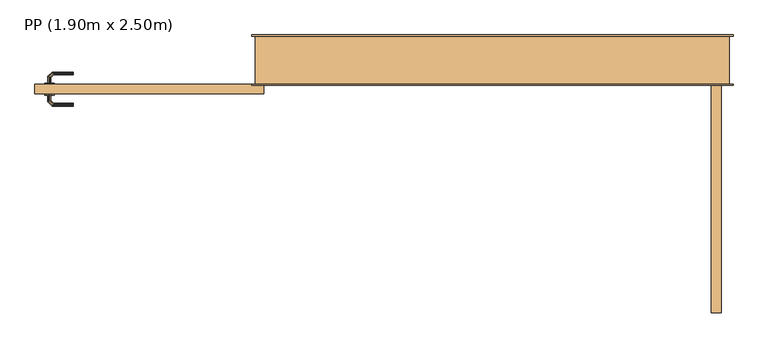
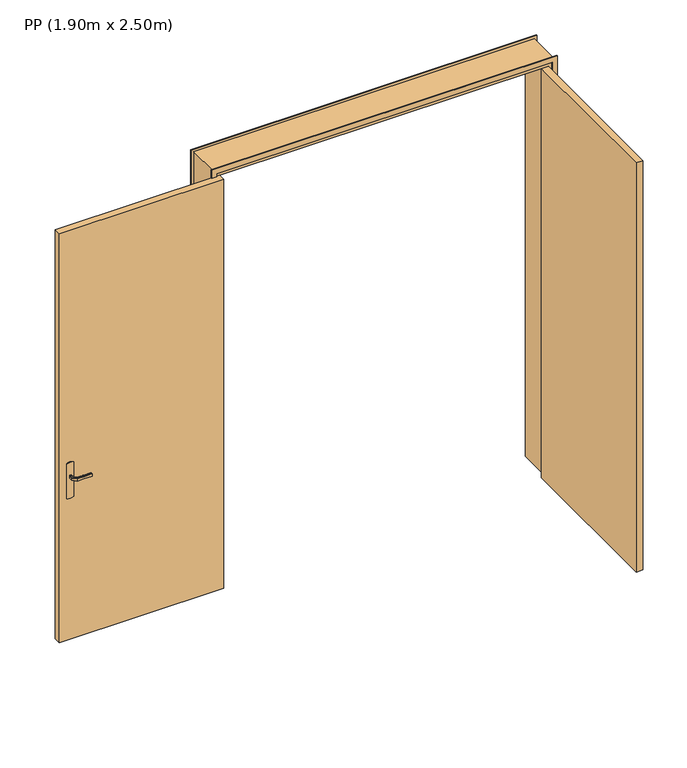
"""IFC4 building model written with IfcOpenShell, lengths in millimetres: door geometry, PP (1.90m x 2.50m)."""

from ifc_helpers import new_model, si_unit, frame, origin, origin_with_axes, place, context, project, spatial, polyline, outline, extrude, faceted_brep, source, transform, mapped, element, save


def pp_1_90m_x_2_50m_8b8835a9(model_context):
    return source(origin(), model_context, "Body", "SolidModel", [
        extrude(outline(polyline([(0.0, 2055.0), (2550.0, 2055.0), (2550.0, 55.0), (0.0, 55.0), (0.0, 85.0), (2520.0, 85.0), (2520.0, 2025.0), (0.0, 2025.0), (0.0, 2055.0)])), frame((0.0, -5.0, 0.0), z_axis=(0.0, 1.0, 0.0), x_axis=(0.0, 0.0, 1.0)), (0.0, 0.0, 1.0), 5.0),
        extrude(outline(polyline([(0.0, 2055.0), (2550.0, 2055.0), (2550.0, 55.0), (0.0, 55.0), (0.0, 85.0), (2520.0, 85.0), (2520.0, 2025.0), (0.0, 2025.0), (0.0, 2055.0)])), frame((0.0, 200.0, 0.0), z_axis=(0.0, 1.0, 0.0), x_axis=(0.0, 0.0, 1.0)), (0.0, 0.0, 1.0), 5.0),
        extrude(outline(polyline([(-845.0, -40.0), (-845.0, 0.0), (105.0, 0.0), (105.0, -40.0), (-845.0, -40.0)])), origin_with_axes(), (0.0, 0.0, 1.0), 2500.0),
        extrude(outline(polyline([(1085.3589838, -785.0), (1083.9960169, -795.3527618), (1080.0, -805.0), (870.0, -805.0), (866.0039831, -795.3527618), (864.6410162, -785.0), (866.0039831, -774.6472382), (870.0, -765.0), (1080.0, -765.0), (1083.9960169, -774.6472382), (1085.3589838, -785.0)])), frame((0.0, -45.0, 0.0), z_axis=(0.0, 1.0, 0.0), x_axis=(0.0, 0.0, 1.0)), (0.0, 0.0, 1.0), 5.0),
        faceted_brep([(2040.0, 0.0, 0.0), (2005.0, 0.0, 0.0), (2005.0, 40.0, 0.0), (1990.0, 40.0, 0.0), (1990.0, 200.0, 0.0), (2040.0, 200.0, 0.0), (2040.0, 200.0, 2535.0), (2040.0, 0.0, 2535.0), (1990.0, 200.0, 2485.0), (120.0, 200.0, 2485.0), (120.0, 200.0, 0.0), (70.0, 200.0, 0.0), (70.0, 200.0, 2535.0), (1990.0, 40.0, 2485.0), (2005.0, 40.0, 2500.0), (105.0, 40.0, 2500.0), (105.0, 40.0, 0.0), (120.0, 40.0, 0.0), (120.0, 40.0, 2485.0), (2005.0, 0.0, 2500.0), (70.0, 0.0, 2535.0), (70.0, 0.0, 0.0), (105.0, 0.0, 0.0), (105.0, 0.0, 2500.0)], [[[0, 1, 2, 3, 4, 5]], [[5, 6, 7, 0]], [[4, 8, 9, 10, 11, 12, 6, 5]], [[3, 13, 8, 4]], [[2, 14, 15, 16, 17, 18, 13, 3]], [[1, 19, 14, 2]], [[0, 7, 20, 21, 22, 23, 19, 1]], [[12, 11, 21, 20]], [[21, 11, 10, 17, 16, 22]], [[18, 17, 10, 9]], [[23, 22, 16, 15]], [[6, 12, 20, 7]], [[13, 18, 9, 8]], [[19, 23, 15, 14]]]),
        extrude(outline(polyline([(1965.0, -950.0), (1965.0, 0.0), (2005.0, 0.0), (2005.0, -950.0), (1965.0, -950.0)])), origin_with_axes(), (0.0, 0.0, 1.0), 2500.0),
        extrude(outline(polyline([(1080.0, -805.0), (870.0, -805.0), (866.0039831, -795.3527618), (864.6410162, -785.0), (866.0039831, -774.6472382), (870.0, -765.0), (1080.0, -765.0), (1083.9960169, -774.6472382), (1085.3589838, -785.0), (1083.9960169, -795.3527618), (1080.0, -805.0)])), frame((0.0, 0.0, 0.0), z_axis=(0.0, 1.0, 0.0), x_axis=(0.0, 0.0, 1.0)), (0.0, 0.0, 1.0), 5.0),
        faceted_brep([(-782.9747013, 5.0, 1007.7804408), (-787.0252987, 5.0, 1007.7804408), (-791.0, 5.0, 1007.0), (-791.0, 5.0, 993.0), (-787.0252987, 5.0, 992.2195592), (-782.9747013, 5.0, 992.2195592), (-779.0, 5.0, 993.0), (-779.0, 5.0, 1007.0), (-787.0252987, 31.0045755, 1007.7804408), (-791.0, 32.6509507, 1007.0), (-782.9747013, 29.3267632, 1007.7804408), (-769.2986025, 43.002862, 1007.7804408), (-770.9764148, 47.0534593, 1007.7804408), (-779.0, 27.680388, 1007.0), (-779.0, 27.680388, 993.0), (-782.9747013, 29.3267632, 992.2195592), (-787.0252987, 31.0045755, 992.2195592), (-770.9764148, 47.0534593, 992.2195592), (-769.2986025, 43.002862, 992.2195592), (-791.0, 32.6509507, 993.0), (-772.62279, 51.0281607, 1007.0), (-767.6522273, 39.0281607, 1007.0), (-767.6522273, 39.0281607, 993.0), (-772.62279, 51.0281607, 993.0), (-684.9813594, 51.0281607, 1007.0), (-684.9813594, 47.0534593, 1007.7804408), (-684.9813594, 43.002862, 1007.7804408), (-684.9813594, 39.0281607, 1007.0), (-684.9813594, 39.0281607, 993.0), (-684.9813594, 43.002862, 992.2195592), (-684.9813594, 47.0534593, 992.2195592), (-684.9813594, 51.0281607, 993.0), (-727.1399809, 45.0281607, 1007.8786868), (-732.6923028, 51.0281607, 1007.0), (-726.3167933, 39.0281607, 1007.0), (-726.3167933, 39.0281607, 993.0), (-727.1399811, 45.0281608, 992.1213132), (-732.6923104, 51.0281607, 993.0)], [[[0, 1, 2, 3, 4, 5, 6, 7]], [[2, 1, 8, 9]], [[1, 0, 10, 11, 12, 8]], [[0, 7, 13, 10]], [[14, 13, 7, 6]], [[5, 15, 14, 6]], [[5, 4, 16, 17, 18, 15]], [[3, 19, 16, 4]], [[9, 19, 3, 2]], [[9, 8, 12, 20]], [[10, 13, 21, 11]], [[22, 21, 13, 14]], [[14, 15, 18, 22]], [[16, 19, 23, 17]], [[20, 23, 19, 9]], [[24, 25, 26, 27, 28, 29, 30, 31]], [[32, 25, 33]], [[33, 25, 24]], [[33, 20, 12]], [[11, 34, 32]], [[34, 11, 21]], [[27, 26, 34]], [[32, 26, 25]], [[32, 34, 26]], [[32, 33, 12]], [[11, 32, 12]], [[21, 22, 35, 28, 27, 34]], [[36, 29, 35]], [[30, 36, 37]], [[18, 35, 22]], [[29, 28, 35]], [[30, 37, 31]], [[37, 17, 23]], [[36, 17, 37]], [[36, 18, 17]], [[36, 35, 18]], [[29, 36, 30]], [[23, 20, 33, 24, 31, 37]]]),
        faceted_brep([(-782.9747013, -45.0, 992.2195592), (-787.0252987, -45.0, 992.2195592), (-791.0, -45.0, 993.0), (-791.0, -45.0, 1007.0), (-787.0252987, -45.0, 1007.7804408), (-782.9747013, -45.0, 1007.7804408), (-779.0, -45.0, 1007.0), (-779.0, -45.0, 993.0), (-779.0, -67.4852045, 1007.0), (-779.0, -67.4852045, 993.0), (-782.9747013, -69.1315797, 1007.7804408), (-787.0252987, -70.8093921, 1007.7804408), (-770.8389062, -86.9957845, 1007.7804408), (-769.1610938, -82.9451872, 1007.7804408), (-791.0, -72.4557673, 1007.0), (-791.0, -72.4557673, 993.0), (-787.0252987, -70.8093921, 992.2195592), (-782.9747013, -69.1315797, 992.2195592), (-769.1610938, -82.9451872, 992.2195592), (-770.8389062, -86.9957845, 992.2195592), (-767.5147186, -78.9704859, 1007.0), (-767.5147186, -78.9704859, 993.0), (-772.4852814, -90.9704859, 1007.0), (-772.4852814, -90.9704859, 993.0), (-684.9542163, -82.9451872, 1007.7804408), (-684.9542163, -86.9957845, 1007.7804408), (-684.9542163, -90.9704859, 1007.0), (-684.9542163, -90.9704859, 993.0), (-684.9542163, -86.9957845, 992.2195592), (-684.9542163, -82.9451872, 992.2195592), (-684.9542163, -78.9704859, 993.0), (-684.9542163, -78.9704859, 1007.0), (-726.2344675, -78.9704859, 1007.0), (-726.2344794, -78.9704859, 993.0), (-727.0576551, -84.9704859, 1007.8786868), (-732.5547942, -90.9704859, 1007.0), (-732.5547957, -90.9704859, 993.0), (-727.0576549, -84.9704858, 992.1213132)], [[[0, 1, 2, 3, 4, 5, 6, 7]], [[8, 9, 7, 6]], [[5, 10, 8, 6]], [[5, 4, 11, 12, 13, 10]], [[3, 14, 11, 4]], [[14, 3, 2, 15]], [[2, 1, 16, 15]], [[1, 0, 17, 18, 19, 16]], [[0, 7, 9, 17]], [[20, 21, 9, 8]], [[8, 10, 13, 20]], [[14, 22, 12, 11]], [[23, 22, 14, 15]], [[15, 16, 19, 23]], [[17, 9, 21, 18]], [[24, 25, 26, 27, 28, 29, 30, 31]], [[21, 20, 32, 31, 30, 33]], [[34, 24, 32]], [[25, 34, 35]], [[13, 32, 20]], [[24, 31, 32]], [[25, 35, 26]], [[35, 12, 22]], [[34, 12, 35]], [[34, 13, 12]], [[34, 32, 13]], [[24, 34, 25]], [[22, 23, 36, 27, 26, 35]], [[37, 28, 36]], [[36, 28, 27]], [[36, 23, 19]], [[18, 33, 37]], [[33, 18, 21]], [[30, 29, 33]], [[37, 29, 28]], [[37, 33, 29]], [[37, 36, 19]], [[18, 37, 19]]]),
    ])


if __name__ == "__main__":
    model = new_model("IFC4")
    model_context = context("Model", 3, world=origin())
    ifc_project = project(units=[si_unit("LENGTHUNIT", "METRE", prefix="MILLI")], contexts=[model_context])
    site = spatial("IfcSite", under=ifc_project)
    building = spatial("IfcBuilding", under=site)
    placement = place(None, origin())
    pp_1_90m_x_2_50m_shape = pp_1_90m_x_2_50m_8b8835a9(model_context)
    element("IfcDoor", 1, ObjectType="PP (1.90m x 2.50m)", at=placement, inside=building, context=model_context, shape_type="MappedRepresentation", body=[
        mapped(pp_1_90m_x_2_50m_shape, transform((0.0, 0.0, 0.0), x_axis=(1.0, 0.0, 0.0), y_axis=(0.0, 1.0, 0.0), z_axis=(0.0, 0.0, 1.0))),
    ])
    save(model, "model.ifc")
